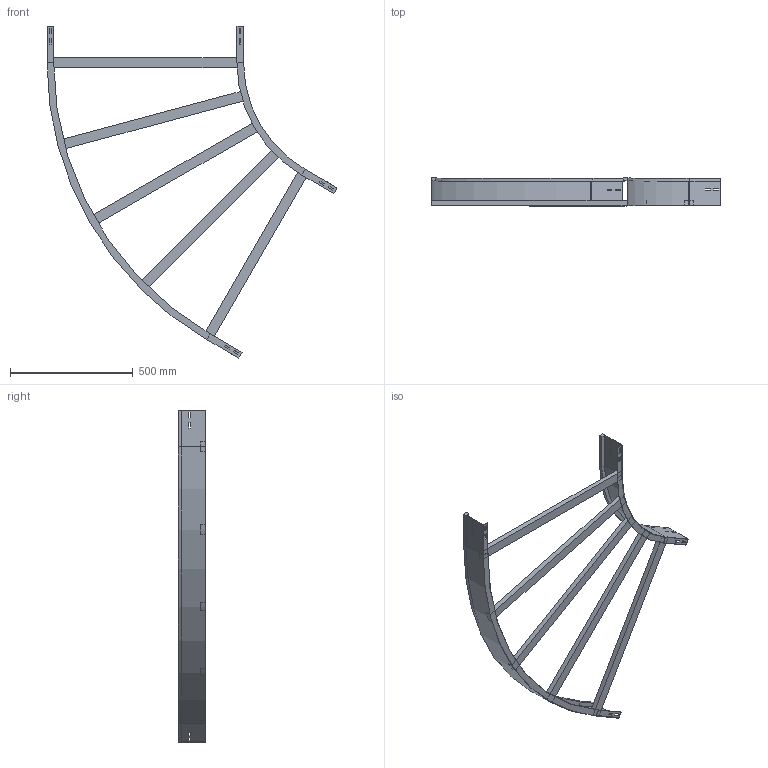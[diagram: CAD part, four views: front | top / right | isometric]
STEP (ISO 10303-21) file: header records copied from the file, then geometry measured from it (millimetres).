
FILE_DESCRIPTION (( 'STEP AP214' ), '1' );
FILE_NAME ('13B5J800.step', '2025-02-21T15:19:09', ( '' ), ( '' ), 'SwSTEP 2.0', 'SolidWorks 2023', '' );
FILE_SCHEMA (( 'AUTOMOTIVE_DESIGN' ));
Length unit declared in the file: millimetre
Products named in the file (4): 13B5J800; A2_LONGH.INTERNO 60°_H112.5_R500; TRAVERSINO_800; A2_LONGH.ESTERNO 60°_H112.5_R500+800
Assembly tree (7 placements, depth 2):
  13B5J800
    A2_LONGH.INTERNO 60°_H112.5_R500
    A2_LONGH.ESTERNO 60°_H112.5_R500+800
    TRAVERSINO_800  x5
Bounding box: 1179.9 x 112.5 x 1350.83 mm (x, y, z)
Volume: 4379346.3 mm3; surface area: 1261297.2 mm2
Topology: 7 solids, 7 shells, 146 faces, 364 edges, 232 vertices
Faces by surface type: plane 138, cylinder 8
Entity records: 3837 total; most frequent: CARTESIAN_POINT 648, ORIENTED_EDGE 632, DIRECTION 596, EDGE_CURVE 316, LINE 300, VECTOR 300, VERTEX_POINT 200, EDGE_LOOP 154
